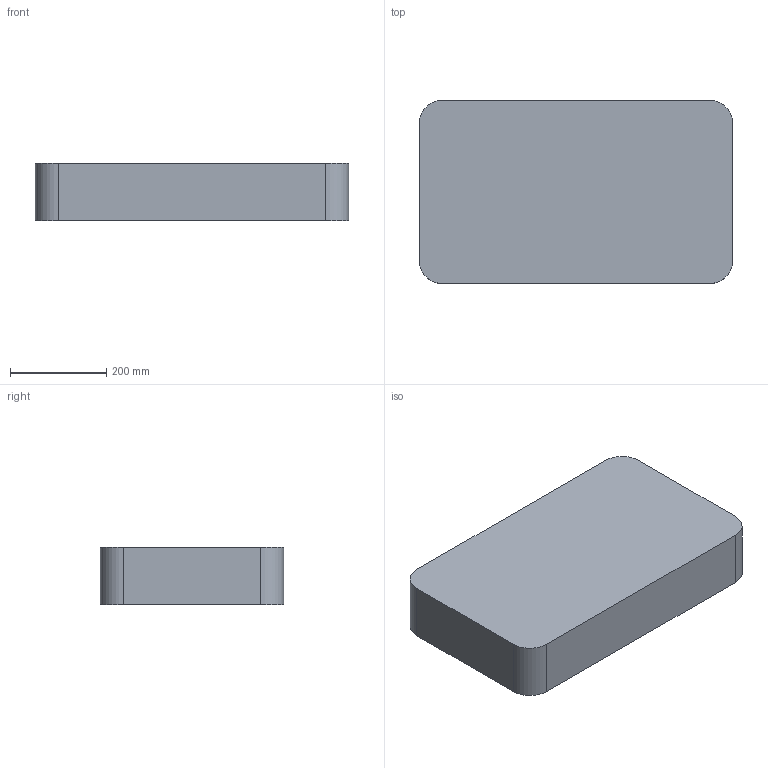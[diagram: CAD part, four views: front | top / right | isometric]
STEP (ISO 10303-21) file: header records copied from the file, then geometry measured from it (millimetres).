
FILE_DESCRIPTION(('Open CASCADE Model'),'2;1');
FILE_NAME('Open CASCADE Shape Model','2026-09-19T16:36:14',('Author'),( 'Open CASCADE'),'Open CASCADE STEP processor 7.8','Open CASCADE 7.8' ,'Unknown');
FILE_SCHEMA(('AUTOMOTIVE_DESIGN { 1 0 10303 214 1 1 1 1 }'));
Length unit declared in the file: millimetre
Products named in the file (1): Open CASCADE STEP translator 7.8 2
Bounding box: 650 x 380 x 120 mm (x, y, z)
Volume: 29402667.5 mm3; surface area: 727355.6 mm2
Topology: 1 solids, 1 shells, 10 faces, 24 edges, 16 vertices
Faces by surface type: plane 6, cylinder 4
Entity records: 630 total; most frequent: CARTESIAN_POINT 123, DIRECTION 98, LINE 56, VECTOR 56, ORIENTED_EDGE 48, PCURVE 48, DEFINITIONAL_REPRESENTATION 48, EDGE_CURVE 24
